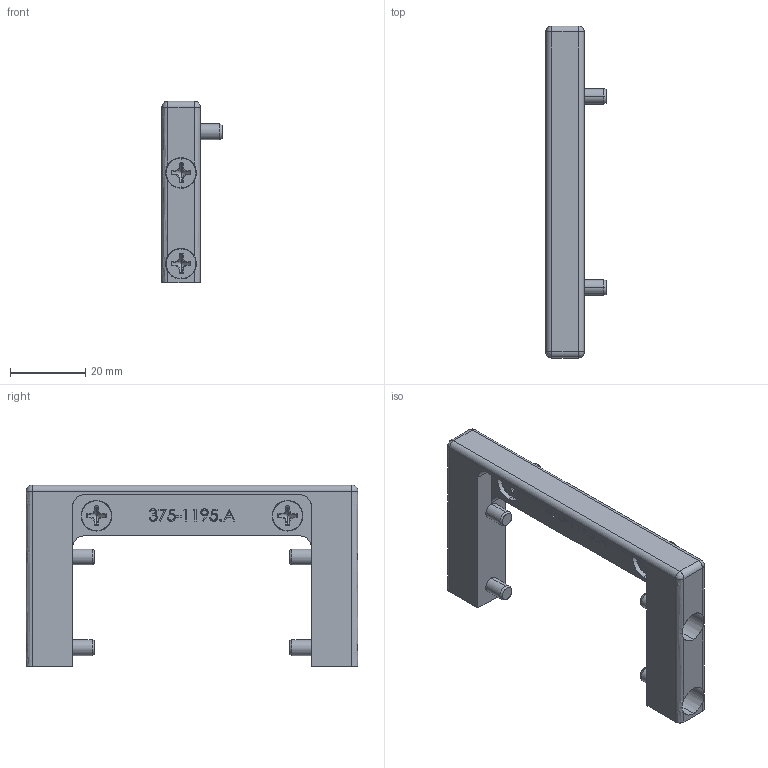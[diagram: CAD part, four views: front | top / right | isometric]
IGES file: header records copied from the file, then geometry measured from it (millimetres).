
Start section: SolidWorks IGES file using analytic representation for surfaces
Global section: file name: C:\Users\Mike\Dropbox\Mechanical Engr\Development Projects (P)\Accessories\Customer Model Development\1401-RM-2, part 2 of 3.IGS; native system: SolidWorks 2014; preprocessor: SolidWorks 2014; author: Mike; date: 150929.211501; units: inch
Bounding box: 15.99 x 88.14 x 48.26 mm (x, y, z)
Surface area: 9883.3 mm2 (no closed solid volume)
Topology: 0 solids, 0 shells, 366 faces, 3987 edges, 3971 vertices
Faces by surface type: bspline 236, revolution 130
